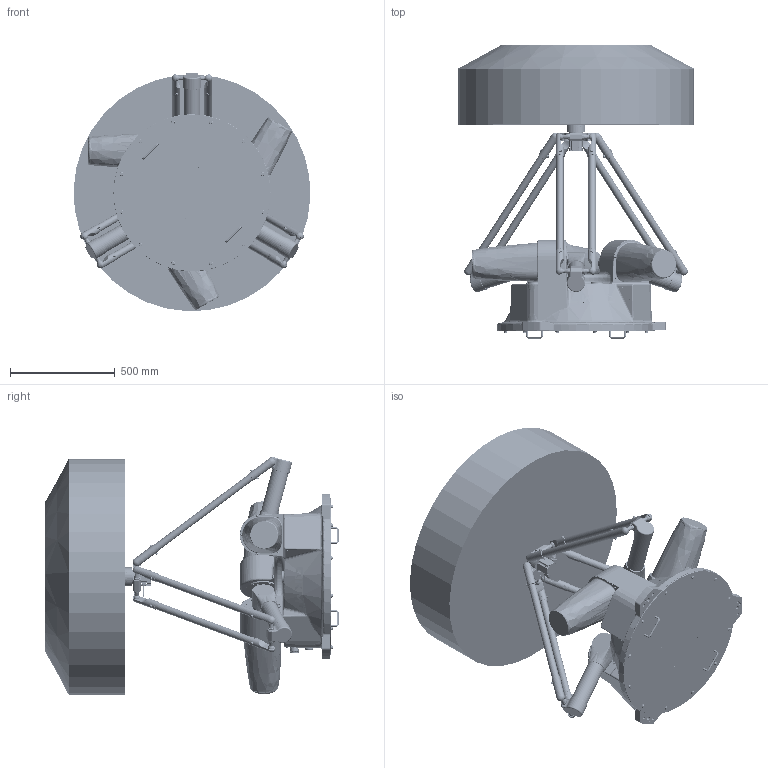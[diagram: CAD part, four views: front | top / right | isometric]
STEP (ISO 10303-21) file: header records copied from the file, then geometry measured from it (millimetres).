
FILE_DESCRIPTION (( 'STEP AP203' ), '1' );
FILE_NAME ('AP25X-1130-1544-T0-V2.0.0.STEP', '2024-10-10T06:29:57', ( '' ), ( '' ), 'SwSTEP 2.0', 'SolidWorks 2017', '' );
FILE_SCHEMA (( 'CONFIG_CONTROL_DESIGN' ));
Products named in the file (6): AP25X-1130-1544-T3-V1.0.0; AP25X-1130-1544-T11-V1.0.0; AP25X-1130-1544-T10-V1.0.0; AP25X-1130-1544-T0-V2.0.0; AP15X-2200-1544-T1-V1.0.1; AP25X-1130-1544-T2-V1.0.0
Assembly tree (12 placements, depth 2):
  AP25X-1130-1544-T0-V2.0.0
    AP15X-2200-1544-T1-V1.0.1
    AP25X-1130-1544-T2-V1.0.0  x3
    AP25X-1130-1544-T3-V1.0.0  x6
    AP25X-1130-1544-T11-V1.0.0
    AP25X-1130-1544-T10-V1.0.0
Bounding box: 1129.18 x 1399 x 1137.38 mm (x, y, z)
Volume: 344223603.2 mm3; surface area: 8398922.2 mm2
Topology: 37 solids, 359 shells, 8569 faces, 23367 edges, 14796 vertices
Faces by surface type: cylinder 2527, bspline 2215, plane 2054, cone 1272, torus 352, sphere 149
Entity records: 376688 total; most frequent: CARTESIAN_POINT 206610, ORIENTED_EDGE 37683, DIRECTION 30593, EDGE_CURVE 19532, VERTEX_POINT 12729, AXIS2_PLACEMENT_3D 11579, EDGE_LOOP 8186, VECTOR 7435
